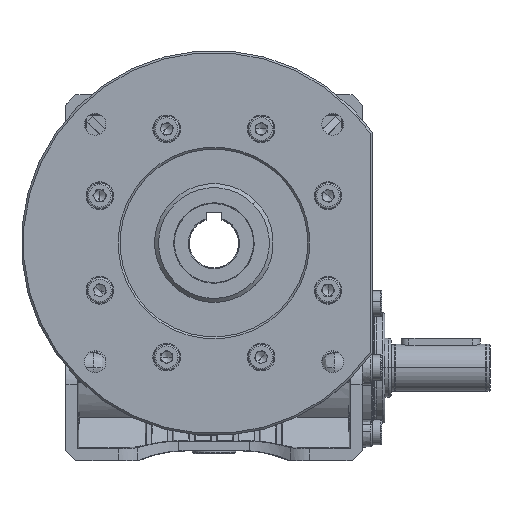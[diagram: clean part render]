
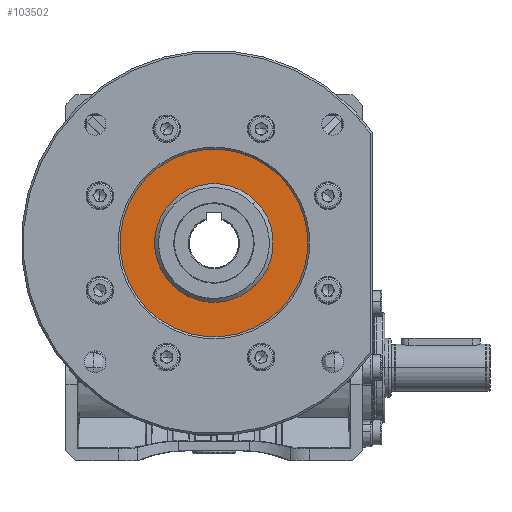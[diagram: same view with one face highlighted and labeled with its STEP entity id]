
A CAD part, top view. The second image highlights one B-rep face of the part: STEP entity #103502.
In plain terms, the highlighted planar face has unit normal (0, 0, 1).
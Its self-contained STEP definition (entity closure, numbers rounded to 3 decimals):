
#990 = EDGE_LOOP ( 'NONE', ( #73475, #89842 ) ) ;
#7561 = CARTESIAN_POINT ( 'NONE',  ( 13.919, 10.183, 289.261 ) ) ;
#8079 = ORIENTED_EDGE ( 'NONE', *, *, #61751, .T. ) ;
#18360 = EDGE_LOOP ( 'NONE', ( #20270, #8079 ) ) ;
#19766 = CARTESIAN_POINT ( 'NONE',  ( 69.427, 65.69, 289.261 ) ) ;
#20202 = DIRECTION ( 'NONE',  ( -0.707, -0.707, 0. ) ) ;
#20270 = ORIENTED_EDGE ( 'NONE', *, *, #46698, .T. ) ;
#20738 = CARTESIAN_POINT ( 'NONE',  ( 35.132, 31.396, 289.261 ) ) ;
#22484 = FACE_BOUND ( 'NONE', #990, .T. ) ;
#26871 = AXIS2_PLACEMENT_3D ( 'NONE', #20738, #46712, #20202 ) ;
#30839 = EDGE_CURVE ( 'NONE', #42883, #101330, #67737, .T. ) ;
#38060 = CARTESIAN_POINT ( 'NONE',  ( 56.345, 52.609, 289.261 ) ) ;
#42883 = VERTEX_POINT ( 'NONE', #38060 ) ;
#43465 = AXIS2_PLACEMENT_3D ( 'NONE', #83399, #93820, #58007 ) ;
#46698 = EDGE_CURVE ( 'NONE', #59269, #50784, #92042, .T. ) ;
#46712 = DIRECTION ( 'NONE',  ( 0., 0., 1. ) ) ;
#49887 = CIRCLE ( 'NONE', #55157, 30. ) ;
#50784 = VERTEX_POINT ( 'NONE', #19766 ) ;
#55157 = AXIS2_PLACEMENT_3D ( 'NONE', #94855, #71143, #104793 ) ;
#55369 = AXIS2_PLACEMENT_3D ( 'NONE', #56452, #74104, #99475 ) ;
#56452 = CARTESIAN_POINT ( 'NONE',  ( 35.132, 31.396, 289.261 ) ) ;
#58007 = DIRECTION ( 'NONE',  ( -0.707, -0.707, 0. ) ) ;
#59269 = VERTEX_POINT ( 'NONE', #98141 ) ;
#61751 = EDGE_CURVE ( 'NONE', #50784, #59269, #62833, .T. ) ;
#62833 = CIRCLE ( 'NONE', #43465, 48.5 ) ;
#65549 = DIRECTION ( 'NONE',  ( 0., 0., -1. ) ) ;
#67737 = CIRCLE ( 'NONE', #55369, 30. ) ;
#71143 = DIRECTION ( 'NONE',  ( 0., 0., -1. ) ) ;
#73475 = ORIENTED_EDGE ( 'NONE', *, *, #94744, .T. ) ;
#74104 = DIRECTION ( 'NONE',  ( 0., 0., -1. ) ) ;
#82138 = PLANE ( 'NONE',  #94681 ) ;
#82657 = FACE_OUTER_BOUND ( 'NONE', #18360, .T. ) ;
#83399 = CARTESIAN_POINT ( 'NONE',  ( 35.132, 31.396, 289.261 ) ) ;
#89296 = CARTESIAN_POINT ( 'NONE',  ( 56.345, 52.609, 289.261 ) ) ;
#89842 = ORIENTED_EDGE ( 'NONE', *, *, #30839, .T. ) ;
#92042 = CIRCLE ( 'NONE', #26871, 48.5 ) ;
#93820 = DIRECTION ( 'NONE',  ( 0., 0., 1. ) ) ;
#94681 = AXIS2_PLACEMENT_3D ( 'NONE', #89296, #65549, #99205 ) ;
#94744 = EDGE_CURVE ( 'NONE', #101330, #42883, #49887, .T. ) ;
#94855 = CARTESIAN_POINT ( 'NONE',  ( 35.132, 31.396, 289.261 ) ) ;
#98141 = CARTESIAN_POINT ( 'NONE',  ( 0.837, -2.899, 289.261 ) ) ;
#99205 = DIRECTION ( 'NONE',  ( -0.707, -0.707, 0. ) ) ;
#99475 = DIRECTION ( 'NONE',  ( -0.707, -0.707, 0. ) ) ;
#101330 = VERTEX_POINT ( 'NONE', #7561 ) ;
#103502 = ADVANCED_FACE ( 'NONE', ( #22484, #82657 ), #82138, .F. ) ;
#104793 = DIRECTION ( 'NONE',  ( -0.707, -0.707, 0. ) ) ;
